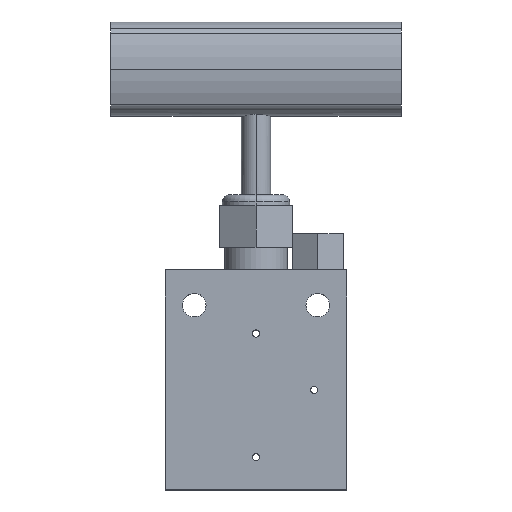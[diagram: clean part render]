
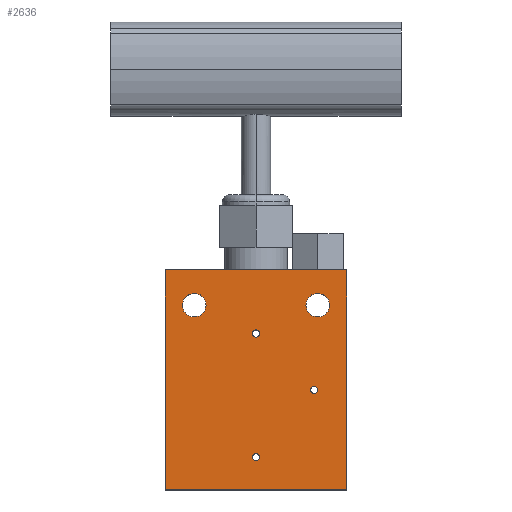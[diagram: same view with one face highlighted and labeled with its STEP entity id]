
A CAD part, top view. The second image highlights one B-rep face of the part: STEP entity #2636.
In plain terms, the highlighted planar face has unit normal (0, 0, 1).
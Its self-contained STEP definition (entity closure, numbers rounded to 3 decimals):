
#25 = CARTESIAN_POINT ( 'NONE',  ( 13.75, 20.55, 12.5 ) ) ;
#40 = CARTESIAN_POINT ( 'NONE',  ( 0., 12.75, 12.5 ) ) ;
#44 = VERTEX_POINT ( 'NONE', #2042 ) ;
#53 = DIRECTION ( 'NONE',  ( 0., 0., 1. ) ) ;
#56 = DIRECTION ( 'NONE',  ( 0., 0., 1. ) ) ;
#83 = DIRECTION ( 'NONE',  ( 1., 0., 0. ) ) ;
#88 = FACE_BOUND ( 'NONE', #2657, .T. ) ;
#106 = CIRCLE ( 'NONE', #356, 3.25 ) ;
#109 = EDGE_CURVE ( 'NONE', #2238, #1835, #2629, .T. ) ;
#119 = CARTESIAN_POINT ( 'NONE',  ( 16., -2.75, 12.5 ) ) ;
#130 = VERTEX_POINT ( 'NONE', #515 ) ;
#146 = VERTEX_POINT ( 'NONE', #2874 ) ;
#213 = AXIS2_PLACEMENT_3D ( 'NONE', #680, #2291, #2338 ) ;
#235 = CARTESIAN_POINT ( 'NONE',  ( 17., -2.75, 12.5 ) ) ;
#255 = EDGE_CURVE ( 'NONE', #559, #1355, #873, .T. ) ;
#258 = CARTESIAN_POINT ( 'NONE',  ( -25., 30.25, 12.5 ) ) ;
#278 = DIRECTION ( 'NONE',  ( 0., 0., 1. ) ) ;
#339 = CIRCLE ( 'NONE', #2404, 3.25 ) ;
#346 = CARTESIAN_POINT ( 'NONE',  ( 20.25, 20.55, 12.5 ) ) ;
#354 = CARTESIAN_POINT ( 'NONE',  ( 0., -21.25, 12.5 ) ) ;
#356 = AXIS2_PLACEMENT_3D ( 'NONE', #1878, #2393, #2408 ) ;
#365 = ORIENTED_EDGE ( 'NONE', *, *, #792, .T. ) ;
#374 = ORIENTED_EDGE ( 'NONE', *, *, #2501, .T. ) ;
#437 = EDGE_LOOP ( 'NONE', ( #2117, #2005 ) ) ;
#459 = DIRECTION ( 'NONE',  ( 0., 0., 1. ) ) ;
#486 = AXIS2_PLACEMENT_3D ( 'NONE', #615, #2696, #550 ) ;
#515 = CARTESIAN_POINT ( 'NONE',  ( -20.25, 20.55, 12.5 ) ) ;
#534 = DIRECTION ( 'NONE',  ( 1., 0., 0. ) ) ;
#550 = DIRECTION ( 'NONE',  ( 1., 0., 0. ) ) ;
#559 = VERTEX_POINT ( 'NONE', #805 ) ;
#592 = AXIS2_PLACEMENT_3D ( 'NONE', #354, #698, #1413 ) ;
#610 = VECTOR ( 'NONE', #619, 1000. ) ;
#615 = CARTESIAN_POINT ( 'NONE',  ( 0., -21.25, 12.5 ) ) ;
#619 = DIRECTION ( 'NONE',  ( 0., 1., 0. ) ) ;
#631 = VECTOR ( 'NONE', #3056, 1000. ) ;
#680 = CARTESIAN_POINT ( 'NONE',  ( 0., 12.75, 12.5 ) ) ;
#689 = AXIS2_PLACEMENT_3D ( 'NONE', #959, #459, #945 ) ;
#697 = CARTESIAN_POINT ( 'NONE',  ( -17., 20.55, 12.5 ) ) ;
#698 = DIRECTION ( 'NONE',  ( 0., 0., 1. ) ) ;
#704 = ORIENTED_EDGE ( 'NONE', *, *, #2483, .F. ) ;
#792 = EDGE_CURVE ( 'NONE', #1355, #44, #1171, .T. ) ;
#805 = CARTESIAN_POINT ( 'NONE',  ( 25., 30.25, 12.5 ) ) ;
#811 = CARTESIAN_POINT ( 'NONE',  ( -25., 30.25, 12.5 ) ) ;
#850 = VERTEX_POINT ( 'NONE', #1302 ) ;
#873 = LINE ( 'NONE', #811, #1553 ) ;
#944 = CIRCLE ( 'NONE', #2669, 1. ) ;
#945 = DIRECTION ( 'NONE',  ( -1., 0., 0. ) ) ;
#959 = CARTESIAN_POINT ( 'NONE',  ( 17., 20.55, 12.5 ) ) ;
#975 = EDGE_CURVE ( 'NONE', #2343, #850, #2449, .T. ) ;
#986 = AXIS2_PLACEMENT_3D ( 'NONE', #1415, #2562, #2851 ) ;
#994 = FACE_BOUND ( 'NONE', #1426, .T. ) ;
#1005 = FACE_BOUND ( 'NONE', #2177, .T. ) ;
#1013 = CARTESIAN_POINT ( 'NONE',  ( -25., 30.25, 12.5 ) ) ;
#1079 = DIRECTION ( 'NONE',  ( -1., 0., 0. ) ) ;
#1171 = LINE ( 'NONE', #258, #631 ) ;
#1199 = DIRECTION ( 'NONE',  ( 0., 0., 1. ) ) ;
#1200 = DIRECTION ( 'NONE',  ( 1., 0., 0. ) ) ;
#1216 = PLANE ( 'NONE',  #1476 ) ;
#1247 = EDGE_CURVE ( 'NONE', #2214, #559, #2936, .T. ) ;
#1254 = FACE_BOUND ( 'NONE', #437, .T. ) ;
#1288 = EDGE_CURVE ( 'NONE', #1835, #2238, #2218, .T. ) ;
#1302 = CARTESIAN_POINT ( 'NONE',  ( -1., -21.25, 12.5 ) ) ;
#1326 = EDGE_LOOP ( 'NONE', ( #365, #374, #2251, #1561 ) ) ;
#1348 = EDGE_CURVE ( 'NONE', #130, #146, #106, .T. ) ;
#1354 = CARTESIAN_POINT ( 'NONE',  ( 1., 12.75, 12.5 ) ) ;
#1355 = VERTEX_POINT ( 'NONE', #1013 ) ;
#1401 = ORIENTED_EDGE ( 'NONE', *, *, #2802, .F. ) ;
#1413 = DIRECTION ( 'NONE',  ( 1., 0., 0. ) ) ;
#1415 = CARTESIAN_POINT ( 'NONE',  ( 17., 20.55, 12.5 ) ) ;
#1420 = ORIENTED_EDGE ( 'NONE', *, *, #1829, .F. ) ;
#1426 = EDGE_LOOP ( 'NONE', ( #2357, #1871 ) ) ;
#1427 = LINE ( 'NONE', #2365, #2061 ) ;
#1428 = CIRCLE ( 'NONE', #592, 1. ) ;
#1452 = ORIENTED_EDGE ( 'NONE', *, *, #2779, .F. ) ;
#1476 = AXIS2_PLACEMENT_3D ( 'NONE', #2157, #56, #2878 ) ;
#1553 = VECTOR ( 'NONE', #1079, 1000. ) ;
#1561 = ORIENTED_EDGE ( 'NONE', *, *, #255, .T. ) ;
#1590 = AXIS2_PLACEMENT_3D ( 'NONE', #2168, #278, #83 ) ;
#1699 = CARTESIAN_POINT ( 'NONE',  ( -1., 12.75, 12.5 ) ) ;
#1704 = EDGE_CURVE ( 'NONE', #1987, #2052, #2137, .T. ) ;
#1829 = EDGE_CURVE ( 'NONE', #146, #130, #339, .T. ) ;
#1835 = VERTEX_POINT ( 'NONE', #235 ) ;
#1838 = ORIENTED_EDGE ( 'NONE', *, *, #1348, .F. ) ;
#1871 = ORIENTED_EDGE ( 'NONE', *, *, #109, .F. ) ;
#1878 = CARTESIAN_POINT ( 'NONE',  ( -17., 20.55, 12.5 ) ) ;
#1987 = VERTEX_POINT ( 'NONE', #1699 ) ;
#2005 = ORIENTED_EDGE ( 'NONE', *, *, #2344, .F. ) ;
#2042 = CARTESIAN_POINT ( 'NONE',  ( -25., -30.25, 12.5 ) ) ;
#2052 = VERTEX_POINT ( 'NONE', #1354 ) ;
#2061 = VECTOR ( 'NONE', #1200, 1000. ) ;
#2074 = CARTESIAN_POINT ( 'NONE',  ( 25., -30.25, 12.5 ) ) ;
#2117 = ORIENTED_EDGE ( 'NONE', *, *, #975, .F. ) ;
#2137 = CIRCLE ( 'NONE', #213, 1. ) ;
#2141 = DIRECTION ( 'NONE',  ( 1., 0., 0. ) ) ;
#2157 = CARTESIAN_POINT ( 'NONE',  ( 0., 0., 12.5 ) ) ;
#2168 = CARTESIAN_POINT ( 'NONE',  ( 16., -2.75, 12.5 ) ) ;
#2177 = EDGE_LOOP ( 'NONE', ( #1420, #1838 ) ) ;
#2214 = VERTEX_POINT ( 'NONE', #2074 ) ;
#2218 = CIRCLE ( 'NONE', #2368, 1. ) ;
#2238 = VERTEX_POINT ( 'NONE', #2969 ) ;
#2251 = ORIENTED_EDGE ( 'NONE', *, *, #1247, .T. ) ;
#2265 = CARTESIAN_POINT ( 'NONE',  ( 1., -21.25, 12.5 ) ) ;
#2291 = DIRECTION ( 'NONE',  ( 0., 0., 1. ) ) ;
#2316 = CIRCLE ( 'NONE', #986, 3.25 ) ;
#2331 = ORIENTED_EDGE ( 'NONE', *, *, #1704, .F. ) ;
#2338 = DIRECTION ( 'NONE',  ( 1., 0., 0. ) ) ;
#2343 = VERTEX_POINT ( 'NONE', #2265 ) ;
#2344 = EDGE_CURVE ( 'NONE', #850, #2343, #1428, .T. ) ;
#2357 = ORIENTED_EDGE ( 'NONE', *, *, #1288, .F. ) ;
#2365 = CARTESIAN_POINT ( 'NONE',  ( -25., -30.25, 12.5 ) ) ;
#2368 = AXIS2_PLACEMENT_3D ( 'NONE', #119, #2951, #2484 ) ;
#2393 = DIRECTION ( 'NONE',  ( 0., 0., 1. ) ) ;
#2404 = AXIS2_PLACEMENT_3D ( 'NONE', #697, #1199, #2141 ) ;
#2408 = DIRECTION ( 'NONE',  ( 1., 0., 0. ) ) ;
#2449 = CIRCLE ( 'NONE', #486, 1. ) ;
#2483 = EDGE_CURVE ( 'NONE', #2052, #1987, #944, .T. ) ;
#2484 = DIRECTION ( 'NONE',  ( 1., 0., 0. ) ) ;
#2501 = EDGE_CURVE ( 'NONE', #44, #2214, #1427, .T. ) ;
#2538 = VERTEX_POINT ( 'NONE', #346 ) ;
#2562 = DIRECTION ( 'NONE',  ( 0., 0., 1. ) ) ;
#2601 = VERTEX_POINT ( 'NONE', #25 ) ;
#2629 = CIRCLE ( 'NONE', #1590, 1. ) ;
#2636 = ADVANCED_FACE ( 'NONE', ( #88, #994, #1254, #1005, #2639, #2920 ), #1216, .T. ) ;
#2639 = FACE_BOUND ( 'NONE', #3021, .T. ) ;
#2657 = EDGE_LOOP ( 'NONE', ( #704, #2331 ) ) ;
#2669 = AXIS2_PLACEMENT_3D ( 'NONE', #40, #53, #534 ) ;
#2696 = DIRECTION ( 'NONE',  ( 0., 0., 1. ) ) ;
#2779 = EDGE_CURVE ( 'NONE', #2538, #2601, #2316, .T. ) ;
#2802 = EDGE_CURVE ( 'NONE', #2601, #2538, #2954, .T. ) ;
#2851 = DIRECTION ( 'NONE',  ( -1., 0., 0. ) ) ;
#2874 = CARTESIAN_POINT ( 'NONE',  ( -13.75, 20.55, 12.5 ) ) ;
#2878 = DIRECTION ( 'NONE',  ( 1., 0., 0. ) ) ;
#2920 = FACE_OUTER_BOUND ( 'NONE', #1326, .T. ) ;
#2936 = LINE ( 'NONE', #2982, #610 ) ;
#2951 = DIRECTION ( 'NONE',  ( 0., 0., 1. ) ) ;
#2954 = CIRCLE ( 'NONE', #689, 3.25 ) ;
#2969 = CARTESIAN_POINT ( 'NONE',  ( 15., -2.75, 12.5 ) ) ;
#2982 = CARTESIAN_POINT ( 'NONE',  ( 25., 30.25, 12.5 ) ) ;
#3021 = EDGE_LOOP ( 'NONE', ( #1452, #1401 ) ) ;
#3056 = DIRECTION ( 'NONE',  ( 0., -1., 0. ) ) ;
